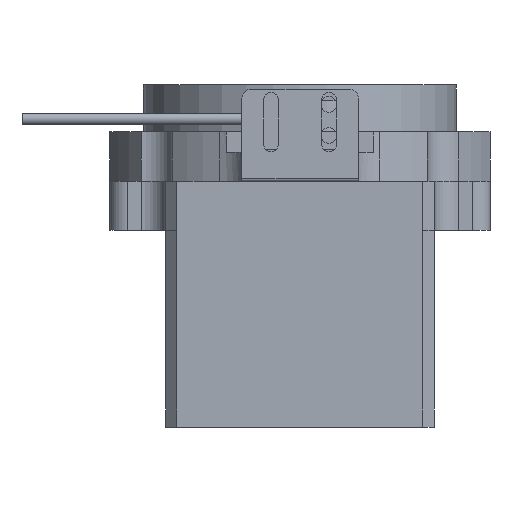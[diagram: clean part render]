
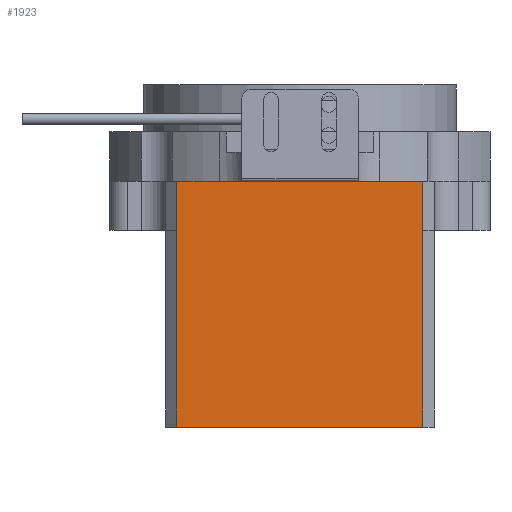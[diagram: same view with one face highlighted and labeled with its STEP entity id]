
A CAD part, front view. The second image highlights one B-rep face of the part: STEP entity #1923.
In plain terms, the highlighted planar face has unit normal (0, -1, 0).
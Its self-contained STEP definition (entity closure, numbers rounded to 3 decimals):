
#204 = VERTEX_POINT ( 'NONE', #4450 ) ;
#343 = CARTESIAN_POINT ( 'NONE',  ( -37.991, -65.684, 5.75 ) ) ;
#344 = VECTOR ( 'NONE', #848, 1000. ) ;
#381 = LINE ( 'NONE', #343, #963 ) ;
#485 = VECTOR ( 'NONE', #7223, 1000. ) ;
#763 = CARTESIAN_POINT ( 'NONE',  ( -35.491, -65.684, -38.25 ) ) ;
#848 = DIRECTION ( 'NONE',  ( -1., 0., 0. ) ) ;
#963 = VECTOR ( 'NONE', #7676, 1000. ) ;
#1431 = CARTESIAN_POINT ( 'NONE',  ( -37.991, -65.684, 16.75 ) ) ;
#1446 = CARTESIAN_POINT ( 'NONE',  ( -92.991, -65.684, 38.25 ) ) ;
#1499 = LINE ( 'NONE', #763, #344 ) ;
#1656 = AXIS2_PLACEMENT_3D ( 'NONE', #2650, #5297, #7371 ) ;
#1886 = EDGE_CURVE ( 'NONE', #7572, #8064, #2603, .T. ) ;
#1923 = ADVANCED_FACE ( 'NONE', ( #7290 ), #8061, .F. ) ;
#2117 = DIRECTION ( 'NONE',  ( 1., 0., 0. ) ) ;
#2483 = VERTEX_POINT ( 'NONE', #6934 ) ;
#2603 = LINE ( 'NONE', #2776, #3326 ) ;
#2650 = CARTESIAN_POINT ( 'NONE',  ( -65.491, -65.684, 38.25 ) ) ;
#2776 = CARTESIAN_POINT ( 'NONE',  ( -65.491, -65.684, 16.75 ) ) ;
#2936 = DIRECTION ( 'NONE',  ( 0., 0., 1. ) ) ;
#3326 = VECTOR ( 'NONE', #2117, 1000. ) ;
#3473 = VERTEX_POINT ( 'NONE', #4659 ) ;
#3617 = EDGE_CURVE ( 'NONE', #3473, #3853, #1499, .T. ) ;
#3665 = EDGE_CURVE ( 'NONE', #2483, #3853, #5233, .T. ) ;
#3744 = ORIENTED_EDGE ( 'NONE', *, *, #8239, .T. ) ;
#3853 = VERTEX_POINT ( 'NONE', #8035 ) ;
#4094 = DIRECTION ( 'NONE',  ( 0., 0., -1. ) ) ;
#4130 = ORIENTED_EDGE ( 'NONE', *, *, #3617, .F. ) ;
#4450 = CARTESIAN_POINT ( 'NONE',  ( -37.991, -65.684, 5.75 ) ) ;
#4659 = CARTESIAN_POINT ( 'NONE',  ( -37.991, -65.684, -38.25 ) ) ;
#4744 = CARTESIAN_POINT ( 'NONE',  ( -92.991, -65.684, 16.75 ) ) ;
#5233 = LINE ( 'NONE', #8446, #485 ) ;
#5297 = DIRECTION ( 'NONE',  ( 0., 1., 0. ) ) ;
#5359 = LINE ( 'NONE', #1446, #6568 ) ;
#5946 = CARTESIAN_POINT ( 'NONE',  ( -37.991, -65.684, 16.75 ) ) ;
#6231 = VECTOR ( 'NONE', #2936, 1000. ) ;
#6367 = ORIENTED_EDGE ( 'NONE', *, *, #8476, .T. ) ;
#6568 = VECTOR ( 'NONE', #4094, 1000. ) ;
#6796 = EDGE_CURVE ( 'NONE', #7572, #2483, #5359, .T. ) ;
#6927 = ORIENTED_EDGE ( 'NONE', *, *, #3665, .T. ) ;
#6934 = CARTESIAN_POINT ( 'NONE',  ( -92.991, -65.684, 5.75 ) ) ;
#7102 = EDGE_LOOP ( 'NONE', ( #8199, #6927, #4130, #3744, #6367, #7970 ) ) ;
#7223 = DIRECTION ( 'NONE',  ( 0., 0., -1. ) ) ;
#7290 = FACE_OUTER_BOUND ( 'NONE', #7102, .T. ) ;
#7371 = DIRECTION ( 'NONE',  ( 1., 0., 0. ) ) ;
#7572 = VERTEX_POINT ( 'NONE', #4744 ) ;
#7676 = DIRECTION ( 'NONE',  ( 0., 0., 1. ) ) ;
#7970 = ORIENTED_EDGE ( 'NONE', *, *, #1886, .F. ) ;
#8035 = CARTESIAN_POINT ( 'NONE',  ( -92.991, -65.684, -38.25 ) ) ;
#8054 = LINE ( 'NONE', #5946, #6231 ) ;
#8061 = PLANE ( 'NONE',  #1656 ) ;
#8064 = VERTEX_POINT ( 'NONE', #1431 ) ;
#8199 = ORIENTED_EDGE ( 'NONE', *, *, #6796, .T. ) ;
#8239 = EDGE_CURVE ( 'NONE', #3473, #204, #381, .T. ) ;
#8446 = CARTESIAN_POINT ( 'NONE',  ( -92.991, -65.684, 38.25 ) ) ;
#8476 = EDGE_CURVE ( 'NONE', #204, #8064, #8054, .T. ) ;
